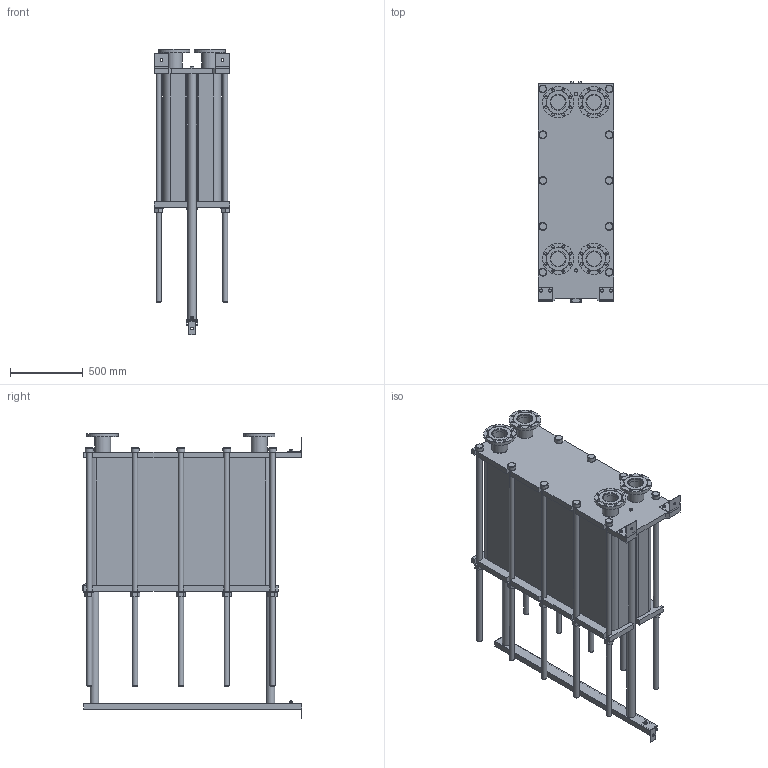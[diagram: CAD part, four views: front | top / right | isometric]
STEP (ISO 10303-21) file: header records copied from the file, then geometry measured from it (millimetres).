
FILE_DESCRIPTION(/* description */ (''),/* implementation_level */ '2;1');
FILE_NAME(/* name */ 'C:\Users\zhuro\Desktop\ENCO\TO\ЭН-04\ЭН-0,5-04-254-1.stp',/* time_stamp */ '2022-06-06T11:07:00+03:00',/* author */ ('zhuro'),/* organization */ (''),/* preprocessor_version */ 'ST-DEVELOPER v18.1',/* originating_system */ 'Autodesk Inventor 2022',/* authorisation */ '');
FILE_SCHEMA (('AUTOMOTIVE_DESIGN { 1 0 10303 214 3 1 1 }'));
Length unit declared in the file: millimetre
Products named in the file (1): ЭН-0,5-04-254-1
Bounding box: 520 x 1510 x 1962 mm (x, y, z)
Volume: 517432156.7 mm3; surface area: 11741736.5 mm2
Topology: 45 solids, 45 shells, 668 faces, 1611 edges, 1048 vertices
Faces by surface type: plane 457, cylinder 166, cone 39, torus 6
Full cylindrical faces by diameter (mm): 8 x4, 10 x2, 16 x8, 18 x35, 36 x25, 40 x2, 42 x1, 45 x4, 54 x10, 57 x2, 60 x10, 68 x2, 100 x4, 110 x8, 215 x4
Entity records: 23607 total; most frequent: CARTESIAN_POINT 7348, DIRECTION 3371, ORIENTED_EDGE 3142, EDGE_CURVE 1571, AXIS2_PLACEMENT_3D 1199, VERTEX_POINT 1044, LINE 973, VECTOR 973
